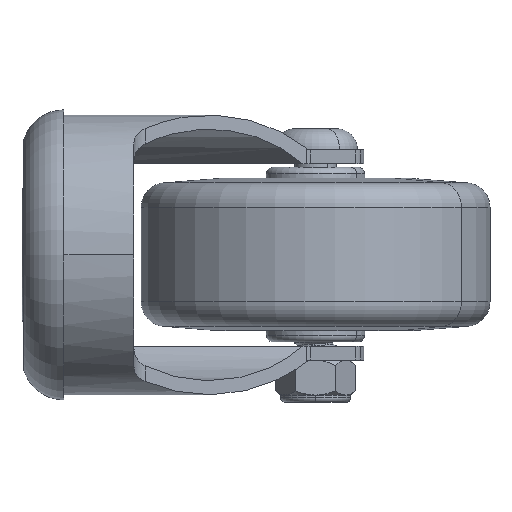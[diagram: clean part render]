
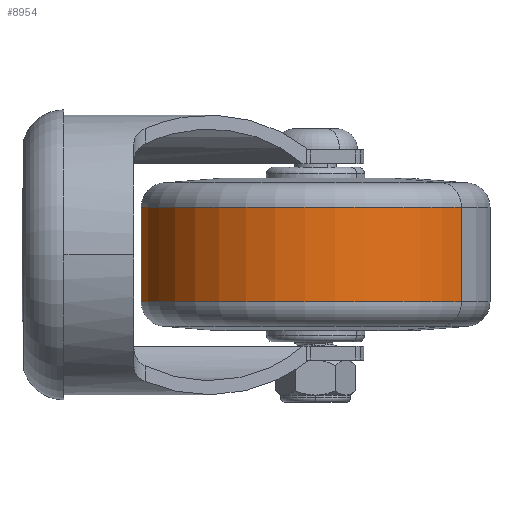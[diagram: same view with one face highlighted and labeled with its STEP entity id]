
A CAD part, left-side view. The second image highlights one B-rep face of the part: STEP entity #8954.
In plain terms, the highlighted cylindrical face has radius 25 mm (diameter 50 mm), a partial arc.
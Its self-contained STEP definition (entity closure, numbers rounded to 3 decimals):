
#273 = CARTESIAN_POINT ( 'NONE',  ( 0., 6.767, -25. ) ) ;
#823 = EDGE_CURVE ( 'NONE', #11819, #18716, #10240, .T. ) ;
#1136 = CARTESIAN_POINT ( 'NONE',  ( 0., 0., 25. ) ) ;
#1939 = CIRCLE ( 'NONE', #6912, 25. ) ;
#2028 = CARTESIAN_POINT ( 'NONE',  ( 0., -6.767, 25. ) ) ;
#6129 = AXIS2_PLACEMENT_3D ( 'NONE', #31514, #36968, #10388 ) ;
#6620 = EDGE_CURVE ( 'NONE', #18716, #21668, #1939, .T. ) ;
#6912 = AXIS2_PLACEMENT_3D ( 'NONE', #21917, #10085, #22485 ) ;
#8954 = ADVANCED_FACE ( 'NONE', ( #27858 ), #13115, .T. ) ;
#9348 = EDGE_LOOP ( 'NONE', ( #11158, #22053, #23258, #19026 ) ) ;
#10085 = DIRECTION ( 'NONE',  ( 0., -1., 0. ) ) ;
#10240 = LINE ( 'NONE', #1136, #35317 ) ;
#10388 = DIRECTION ( 'NONE',  ( 0., 0., -1. ) ) ;
#10517 = CARTESIAN_POINT ( 'NONE',  ( 0., 0., -25. ) ) ;
#11158 = ORIENTED_EDGE ( 'NONE', *, *, #823, .F. ) ;
#11819 = VERTEX_POINT ( 'NONE', #20809 ) ;
#13115 = CYLINDRICAL_SURFACE ( 'NONE', #21210, 25. ) ;
#13428 = DIRECTION ( 'NONE',  ( 0., -1., 0. ) ) ;
#14046 = CARTESIAN_POINT ( 'NONE',  ( 0., -6.767, -25. ) ) ;
#18716 = VERTEX_POINT ( 'NONE', #2028 ) ;
#19026 = ORIENTED_EDGE ( 'NONE', *, *, #6620, .F. ) ;
#19124 = DIRECTION ( 'NONE',  ( 0., 0., -1. ) ) ;
#20809 = CARTESIAN_POINT ( 'NONE',  ( 0., 6.767, 25. ) ) ;
#20824 = VERTEX_POINT ( 'NONE', #273 ) ;
#21210 = AXIS2_PLACEMENT_3D ( 'NONE', #36791, #22050, #19124 ) ;
#21668 = VERTEX_POINT ( 'NONE', #14046 ) ;
#21876 = DIRECTION ( 'NONE',  ( 0., -1., 0. ) ) ;
#21917 = CARTESIAN_POINT ( 'NONE',  ( 0., -6.767, 0. ) ) ;
#22050 = DIRECTION ( 'NONE',  ( 0., -1., 0. ) ) ;
#22053 = ORIENTED_EDGE ( 'NONE', *, *, #36525, .T. ) ;
#22485 = DIRECTION ( 'NONE',  ( 0., 0., -1. ) ) ;
#23258 = ORIENTED_EDGE ( 'NONE', *, *, #24077, .T. ) ;
#24077 = EDGE_CURVE ( 'NONE', #20824, #21668, #29133, .T. ) ;
#27858 = FACE_OUTER_BOUND ( 'NONE', #9348, .T. ) ;
#28685 = VECTOR ( 'NONE', #13428, 1000. ) ;
#29133 = LINE ( 'NONE', #10517, #28685 ) ;
#31514 = CARTESIAN_POINT ( 'NONE',  ( 0., 6.767, 0. ) ) ;
#32116 = CIRCLE ( 'NONE', #6129, 25. ) ;
#35317 = VECTOR ( 'NONE', #21876, 1000. ) ;
#36525 = EDGE_CURVE ( 'NONE', #11819, #20824, #32116, .T. ) ;
#36791 = CARTESIAN_POINT ( 'NONE',  ( 0., 0., 0. ) ) ;
#36968 = DIRECTION ( 'NONE',  ( 0., -1., 0. ) ) ;
